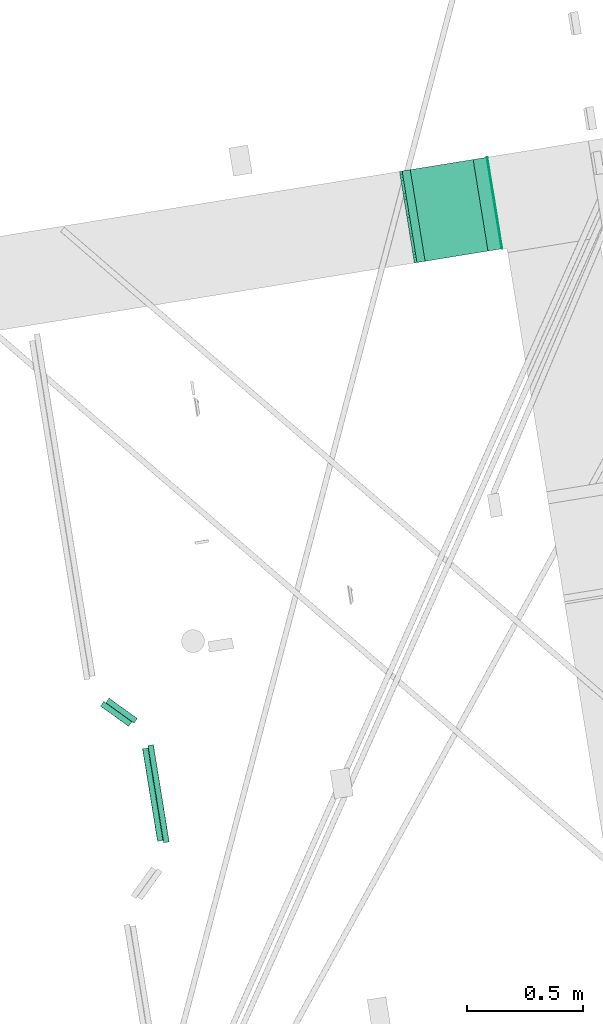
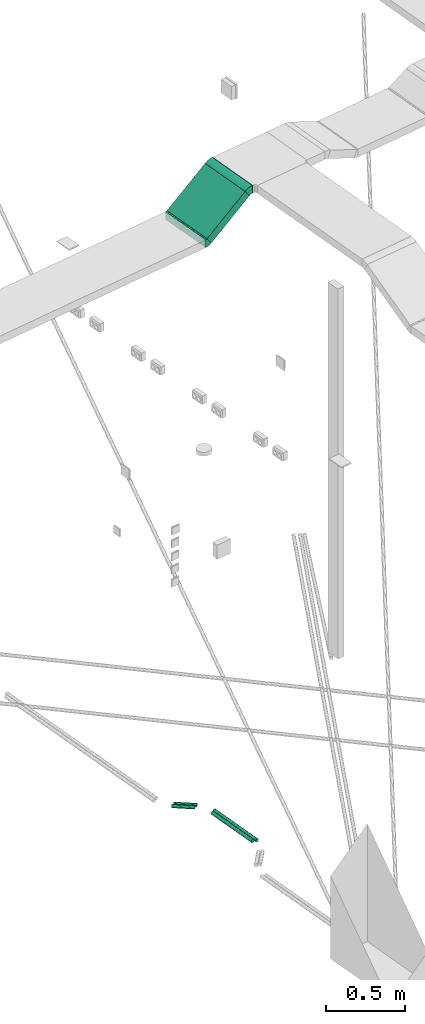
# One storey, part 3 of 33: 6 flow segments, 2 flow fittings.
"""IFC2X3 building model written with IfcOpenShell, lengths in millimetres."""

from ifc_helpers import new_model, entity, si_unit, converted_unit, derived_unit, direction, frame, frame_2d, origin, origin_with_axes, origin_2d_with_axis, place, context, subcontext, project, spatial, polyline, circle_curve, parameter, trimmed, segment, composite_curve, rectangle, circle, outline, extrude, source, transform, mapped, material, type_object, element, save


model = new_model("IFC2X3")

# Units and contexts
plan_context = context("Plan", 3, precision=1e-05, world=origin_with_axes())
model_context = context("Model", 3, precision=0.01, world=origin(), true_north=direction((6.12323399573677e-17, 1.0)))
body_context = subcontext(model_context, "Body", "Model", "MODEL_VIEW")
ifc_project = project(units=[converted_unit("PLANEANGLEUNIT", "DEGREE", entity("IfcPositiveLengthMeasure", 0.0174532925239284), si_unit("PLANEANGLEUNIT", "RADIAN"), dimensions=[0, 0, 0, 0, 0, 0, 0]), si_unit("AREAUNIT", "SQUARE_METRE"), si_unit("LENGTHUNIT", "METRE", prefix="MILLI"), si_unit("MASSUNIT", "GRAM", prefix="KILO"), si_unit("POWERUNIT", "WATT"), si_unit("PRESSUREUNIT", "PASCAL", prefix="KILO"), si_unit("FORCEUNIT", "NEWTON", prefix="KILO"), si_unit("ELECTRICVOLTAGEUNIT", "VOLT"), si_unit("ELECTRICCURRENTUNIT", "AMPERE"), si_unit("THERMODYNAMICTEMPERATUREUNIT", "DEGREE_CELSIUS"), si_unit("TIMEUNIT", "SECOND"), si_unit("VOLUMEUNIT", "CUBIC_METRE"), derived_unit("LINEARVELOCITYUNIT", [(si_unit("LENGTHUNIT", "METRE"), 1), (si_unit("TIMEUNIT", "SECOND"), -1)]), derived_unit("VOLUMETRICFLOWRATEUNIT", [(si_unit("VOLUMEUNIT", "CUBIC_METRE"), 1), (si_unit("TIMEUNIT", "SECOND"), -1)]), derived_unit("THERMALTRANSMITTANCEUNIT", [(si_unit("POWERUNIT", "WATT"), 1), (si_unit("THERMODYNAMICTEMPERATUREUNIT", "KELVIN"), -1), (si_unit("AREAUNIT", "SQUARE_METRE"), -1)]), derived_unit("SOUNDPRESSUREUNIT", [(si_unit("PRESSUREUNIT", "PASCAL"), 1)])], contexts=[model_context, plan_context])

# Site, building, storey
site_placement = place(None, frame((-0.219946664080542, 0.12226179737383, 0.0), z_axis=(0.0, 0.0, 1.0), x_axis=(-0.160236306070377, 0.987078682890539, 0.0)))
site = spatial("IfcSite", under=ifc_project, at=site_placement, Name="Default", CompositionType="ELEMENT")
building_placement = place(site_placement, origin_with_axes())
building = spatial("IfcBuilding", under=site, at=building_placement, CompositionType="ELEMENT")
storey_placement = place(building_placement, frame((0.0, 0.0, 59000.0), z_axis=(0.0, 0.0, 1.0), x_axis=(1.0, 0.0, 0.0)))
storey = spatial("IfcBuildingStorey", under=building, at=storey_placement, Name="Nivå F", CompositionType="ELEMENT", Elevation=59000.0)

# Flow fittings
ifc_material = material(Name="<Unnamed>")
cable_carrier_fitting_type_1 = type_object("IfcCableCarrierFittingType", Name="MC_Ladder Vertical Inside Bend_Short:Standard 10mm", PredefinedType="NOTDEFINED", material=ifc_material)
shared_shape_1 = source(origin(), body_context, "Body", "SweptSolid", [
    extrude(outline(composite_curve([segment(polyline([(-14.6638413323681, -34.3009859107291), (-11.6638413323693, -34.3009859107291)]), True, "CONTINUOUS"), segment(trimmed(circle_curve(frame_2d((-11.6638413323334, 35.6990140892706), x_axis=(0.0, -1.0)), 69.9999999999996), [parameter(0.0)], [parameter(36.1872534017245)], True, "PARAMETER"), True, "CONTINUOUS"), segment(polyline([(29.6659876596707, -20.7974038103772), (32.0872627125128, -19.0261254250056)]), True, "CONTINUOUS"), segment(polyline([(32.0872627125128, -19.0261254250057), (-3.33830499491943, 29.3993756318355)]), True, "CONTINUOUS"), segment(polyline([(-3.33830499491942, 29.3993756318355), (-5.75958004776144, 27.6280972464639)]), True, "CONTINUOUS"), segment(trimmed(circle_curve(frame_2d((-11.6638413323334, 35.6990140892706), x_axis=(0.0, -1.0)), 9.99999999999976), [parameter(0.0)], [parameter(36.1872534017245)], True, "PARAMETER"), False, "CONTINUOUS"), segment(polyline([(-11.6638413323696, 25.6990140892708), (-14.6638413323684, 25.6990140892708)]), True, "CONTINUOUS"), segment(polyline([(-14.6638413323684, 25.6990140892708), (-14.6638413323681, -34.3009859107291)]), True, "CONTINUOUS")], self_intersect=False)), frame((-1.40524937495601, 4.30098591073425, -200.0)), (0.0, 0.0, 1.0), 400.0),
])
flow_fitting_1_placement = place(storey_placement, frame((775476.560546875, -503649.090257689, 2649.99999818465), z_axis=(-1.0, 0.0, 0.0), x_axis=(0.0, -1.0, 0.0)))
element("IfcFlowFitting", 1, at=flow_fitting_1_placement, inside=storey, type_object=cable_carrier_fitting_type_1, material=ifc_material, Name="MC_Ladder Vertical Inside Bend_Short:Standard 10mm", ObjectType="MC_Ladder Vertical Inside Bend_Short:Standard 10mm", context=body_context, shape_type="MappedRepresentation", body=[
    mapped(shared_shape_1, transform((0.0, 0.0, 0.0), scale=1.0)),
])
cable_carrier_fitting_type_2 = type_object("IfcCableCarrierFittingType", Name="MC_Ladder Vertical Outside Bend:Standard 10mm", PredefinedType="NOTDEFINED", material=ifc_material)
shared_shape_2 = source(origin(), body_context, "Body", "SweptSolid", [
    extrude(outline(composite_curve([segment(polyline([(-21.3262517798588, -35.3342316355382), (-11.32625177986, -35.3342316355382)]), True, "CONTINUOUS"), segment(trimmed(circle_curve(frame_2d((-11.3262517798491, 34.6657683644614), x_axis=(0.0, -1.0)), 69.9999999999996), [parameter(0.0)], [parameter(36.1872534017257)], True, "PARAMETER"), True, "CONTINUOUS"), segment(polyline([(30.0035772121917, -21.8306495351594), (38.0744940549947, -15.9263882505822)]), True, "CONTINUOUS"), segment(polyline([(38.0744940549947, -15.9263882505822), (2.64892634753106, 32.4991128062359)]), True, "CONTINUOUS"), segment(polyline([(2.64892634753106, 32.4991128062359), (-5.42199049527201, 26.5948515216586)]), True, "CONTINUOUS"), segment(trimmed(circle_curve(frame_2d((-11.3262517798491, 34.6657683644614), x_axis=(0.0, -1.0)), 9.99999999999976), [parameter(0.0)], [parameter(36.1872534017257)], True, "PARAMETER"), False, "CONTINUOUS"), segment(polyline([(-11.3262517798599, 24.6657683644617), (-21.3262517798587, 24.6657683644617)]), True, "CONTINUOUS"), segment(polyline([(-21.3262517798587, 24.6657683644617), (-21.3262517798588, -35.3342316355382)]), True, "CONTINUOUS")], self_intersect=False)), frame((-1.74283892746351, 5.33423163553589, -200.0)), (0.0, 0.0, 1.0), 400.0),
])
flow_fitting_2_placement = place(storey_placement, frame((775476.560546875, -503990.831438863, 2900.0), z_axis=(-1.0, 0.0, 0.0), x_axis=(0.0, 1.0, 0.0)))
element("IfcFlowFitting", 2, at=flow_fitting_2_placement, inside=storey, type_object=cable_carrier_fitting_type_2, material=ifc_material, Name="MC_Ladder Vertical Outside Bend:Standard 10mm", ObjectType="MC_Ladder Vertical Outside Bend:Standard 10mm", context=body_context, shape_type="MappedRepresentation", body=[
    mapped(shared_shape_2, transform((0.0, 0.0, 0.0), scale=1.0)),
])

# Flow segments
cable_carrier_segment_type_1 = type_object("IfcCableCarrierSegmentType", Name="Cable Tray with Fittings:Kabelbro", PredefinedType="CABLETRAYSEGMENT")
flow_segment_1_placement = place(storey_placement, origin_with_axes())
element("IfcFlowSegment", 3, at=flow_segment_1_placement, inside=storey, type_object=cable_carrier_segment_type_1, Name="Cable Tray with Fittings:Kabelbro", ObjectType="Cable Tray with Fittings:Kabelbro", context=body_context, shape_type="SweptSolid", body=[
    extrude(rectangle(XDim=60.0000000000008, YDim=384.284817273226, at=frame_2d((-2.79669620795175e-11, -2.04565253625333e-11), x_axis=(0.0, 1.0))), frame((775276.560546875, -503817.136027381, 2772.93350764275), z_axis=(1.0, 0.0, 0.0), x_axis=(0.0, -0.807091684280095, 0.590426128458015)), (0.0, 0.0, 1.0), 399.999999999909),
])
flow_segment_2_placement = place(storey_placement, origin_with_axes())
element("IfcFlowSegment", 4, at=flow_segment_2_placement, inside=storey, type_object=cable_carrier_segment_type_1, Name="Cable Tray with Fittings:Kabelbro", ObjectType="Cable Tray with Fittings:Kabelbro", context=body_context, shape_type="SweptSolid", body=[
    extrude(rectangle(XDim=3.58267355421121, YDim=399.999999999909, at=origin_2d_with_axis()), frame((775476.560546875, -504015.691866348, 2870.0), z_axis=(0.0, 0.0, 1.0), x_axis=(0.0, 1.0, 0.0)), (0.0, 0.0, 1.0), 60.0000000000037),
])
cable_carrier_segment_type_2 = type_object("IfcCableCarrierSegmentType", Name="Conduit without Fittings:Conduit", PredefinedType="CONDUITSEGMENT")
flow_segment_3_placement = place(storey_placement, origin_with_axes())
element("IfcFlowSegment", 5, at=flow_segment_3_placement, inside=storey, type_object=cable_carrier_segment_type_2, Name="Conduit without Fittings:Conduit", ObjectType="Conduit without Fittings:Conduit", context=body_context, shape_type="SweptSolid", body=[
    extrude(circle(Radius=12.5, at=frame_2d((-1.38606992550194e-10, 0.0), x_axis=(1.0, 0.0))), frame((772982.215674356, -502177.480498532, -57.5000000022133), z_axis=(1.0, 0.0, 0.0), x_axis=(0.0, 1.0, 0.0)), (0.0, 0.0, 1.0), 425.259531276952),
])
flow_segment_4_placement = place(storey_placement, origin_with_axes())
element("IfcFlowSegment", 6, at=flow_segment_4_placement, inside=storey, type_object=cable_carrier_segment_type_2, Name="Conduit without Fittings:Conduit", ObjectType="Conduit without Fittings:Conduit", context=body_context, shape_type="SweptSolid", body=[
    extrude(circle(Radius=12.5, at=frame_2d((0.0, 8.66293703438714e-12), x_axis=(1.0, 0.0))), frame((773520.863553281, -502130.513507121, -57.5000000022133), z_axis=(0.707106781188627, 0.707106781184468, 0.0), x_axis=(-0.707106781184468, 0.707106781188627, 0.0)), (0.0, 0.0, 1.0), 150.000000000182),
])
flow_segment_5_placement = place(storey_placement, origin_with_axes())
element("IfcFlowSegment", 7, at=flow_segment_5_placement, inside=storey, type_object=cable_carrier_segment_type_2, Name="Conduit without Fittings:Conduit", ObjectType="Conduit without Fittings:Conduit", context=body_context, shape_type="SweptSolid", body=[
    extrude(circle(Radius=12.5, at=frame_2d((-2.07910488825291e-10, -8.66293703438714e-12), x_axis=(1.0, 0.0))), frame((772992.571013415, -502152.480498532, -57.5000000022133), z_axis=(1.0, 0.0, 0.0), x_axis=(0.0, 1.0, 0.0)), (0.0, 0.0, 1.0), 404.54885315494),
])
flow_segment_6_placement = place(storey_placement, origin_with_axes())
element("IfcFlowSegment", 8, at=flow_segment_6_placement, inside=storey, type_object=cable_carrier_segment_type_2, Name="Conduit without Fittings:Conduit", ObjectType="Conduit without Fittings:Conduit", context=body_context, shape_type="SweptSolid", body=[
    extrude(circle(Radius=12.5, at=origin_2d_with_axis()), frame((773510.508214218, -502105.513507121, -57.5000000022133), z_axis=(0.707106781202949, 0.707106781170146, 0.0), x_axis=(-0.707106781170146, 0.707106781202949, 0.0)), (0.0, 0.0, 1.0), 150.000000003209),
])

save(model, "model.ifc")
